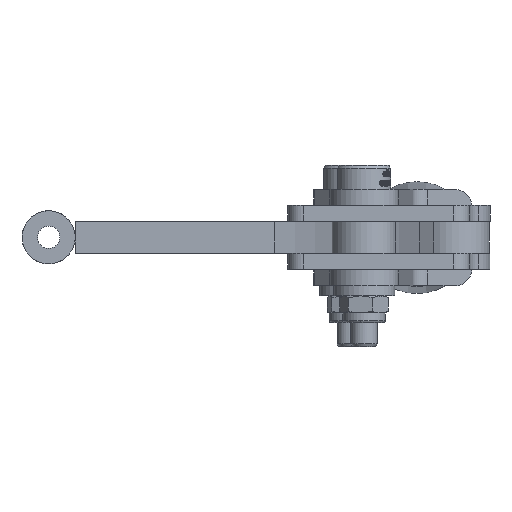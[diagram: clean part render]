
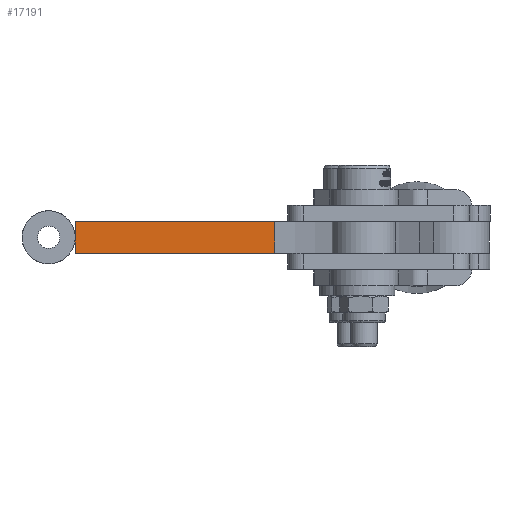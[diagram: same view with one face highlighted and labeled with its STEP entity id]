
A CAD part, front view. The second image highlights one B-rep face of the part: STEP entity #17191.
In plain terms, the highlighted planar face has unit normal (0, -1, 0).
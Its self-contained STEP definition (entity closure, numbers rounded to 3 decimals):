
#2355 = EDGE_CURVE ( 'NONE', #18277, #22682, #30518, .T. ) ;
#3182 = CARTESIAN_POINT ( 'NONE',  ( 0., 28.89, 6. ) ) ;
#4296 = CARTESIAN_POINT ( 'NONE',  ( 133.884, 28.89, 6. ) ) ;
#5187 = VERTEX_POINT ( 'NONE', #20331 ) ;
#5430 = ORIENTED_EDGE ( 'NONE', *, *, #2355, .F. ) ;
#6189 = CARTESIAN_POINT ( 'NONE',  ( 0., 28.89, 6. ) ) ;
#6502 = DIRECTION ( 'NONE',  ( -1., 0., 0. ) ) ;
#6580 = ORIENTED_EDGE ( 'NONE', *, *, #10017, .F. ) ;
#7442 = EDGE_CURVE ( 'NONE', #22682, #12040, #19275, .T. ) ;
#10017 = EDGE_CURVE ( 'NONE', #5187, #18277, #22415, .T. ) ;
#12040 = VERTEX_POINT ( 'NONE', #23144 ) ;
#12546 = DIRECTION ( 'NONE',  ( 0., 1., 0. ) ) ;
#12756 = FACE_OUTER_BOUND ( 'NONE', #32449, .T. ) ;
#14744 = VECTOR ( 'NONE', #31595, 1000. ) ;
#14984 = AXIS2_PLACEMENT_3D ( 'NONE', #3182, #12546, #6502 ) ;
#15296 = CARTESIAN_POINT ( 'NONE',  ( 171.358, 28.89, 6. ) ) ;
#16472 = EDGE_CURVE ( 'NONE', #12040, #5187, #32636, .T. ) ;
#16988 = DIRECTION ( 'NONE',  ( 0., 0., 1. ) ) ;
#17191 = ADVANCED_FACE ( 'NONE', ( #12756 ), #40702, .F. ) ;
#18277 = VERTEX_POINT ( 'NONE', #37386 ) ;
#19238 = ORIENTED_EDGE ( 'NONE', *, *, #16472, .F. ) ;
#19275 = LINE ( 'NONE', #25325, #14744 ) ;
#20331 = CARTESIAN_POINT ( 'NONE',  ( 133.884, 28.89, 6. ) ) ;
#22367 = ORIENTED_EDGE ( 'NONE', *, *, #7442, .F. ) ;
#22415 = LINE ( 'NONE', #6189, #27348 ) ;
#22682 = VERTEX_POINT ( 'NONE', #29726 ) ;
#23144 = CARTESIAN_POINT ( 'NONE',  ( 133.884, 28.89, 0. ) ) ;
#24058 = DIRECTION ( 'NONE',  ( 0., 0., -1. ) ) ;
#25325 = CARTESIAN_POINT ( 'NONE',  ( 0., 28.89, 0. ) ) ;
#27348 = VECTOR ( 'NONE', #41197, 1000. ) ;
#29726 = CARTESIAN_POINT ( 'NONE',  ( 171.358, 28.89, 0. ) ) ;
#30518 = LINE ( 'NONE', #15296, #33695 ) ;
#31595 = DIRECTION ( 'NONE',  ( -1., 0., 0. ) ) ;
#32449 = EDGE_LOOP ( 'NONE', ( #5430, #6580, #19238, #22367 ) ) ;
#32636 = LINE ( 'NONE', #4296, #33545 ) ;
#33545 = VECTOR ( 'NONE', #16988, 1000. ) ;
#33695 = VECTOR ( 'NONE', #24058, 1000. ) ;
#37386 = CARTESIAN_POINT ( 'NONE',  ( 171.358, 28.89, 6. ) ) ;
#40702 = PLANE ( 'NONE',  #14984 ) ;
#41197 = DIRECTION ( 'NONE',  ( 1., 0., 0. ) ) ;
